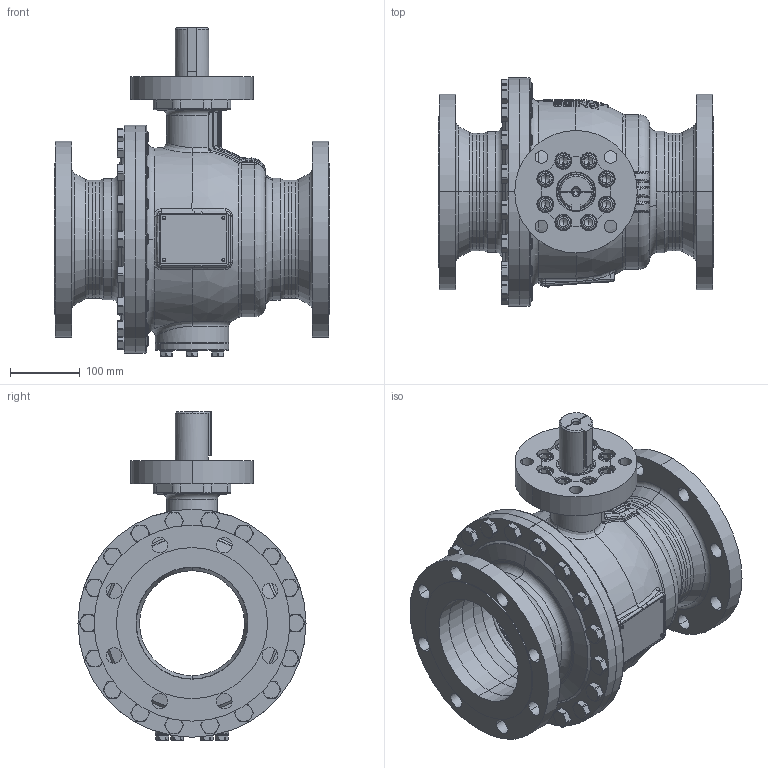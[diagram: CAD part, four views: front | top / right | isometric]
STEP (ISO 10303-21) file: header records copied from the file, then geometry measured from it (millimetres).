
FILE_DESCRIPTION((''),'2;1');
FILE_NAME('KHI-F_150_CL150-F14-P_SW0001','2026-02-05T11:15:30',('fischerkl'),('KLINGER'),'CREO PARAMETRIC BY PTC INC, 2023014','CREO PARAMETRIC BY PTC INC, 2023014','');
FILE_SCHEMA(('CONFIG_CONTROL_DESIGN'));
Products named in the file (1): KHI-F_150_CL150-F14-P_SW0001
Bounding box: 394 x 326 x 469.2 mm (x, y, z)
Volume: 8286106.5 mm3; surface area: 1557469.1 mm2
Topology: 1 solids, 4 shells, 3732 faces, 9580 edges, 5977 vertices
Faces by surface type: plane 2283, cylinder 684, cone 366, torus 258, bspline 113, sphere 28
Entity records: 144886 total; most frequent: CARTESIAN_POINT 56492, ORIENTED_EDGE 19108, DIRECTION 17475, EDGE_CURVE 9554, AXIS2_PLACEMENT_3D 6162, VERTEX_POINT 5977, VECTOR 5151, LINE 5151
